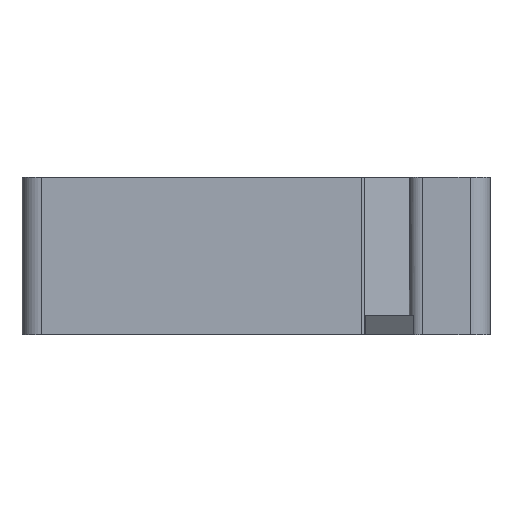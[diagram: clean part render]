
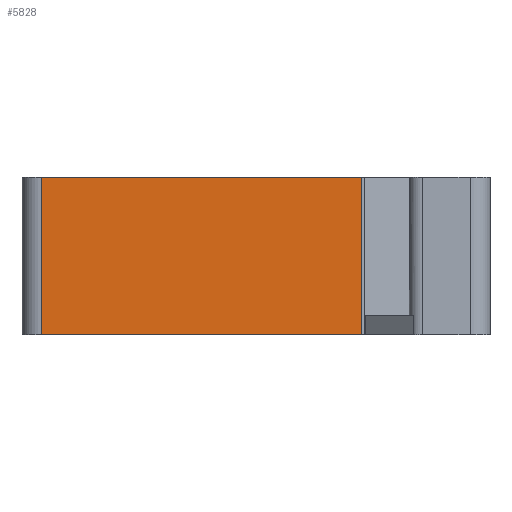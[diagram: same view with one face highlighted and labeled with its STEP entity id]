
A CAD part, left-side view. The second image highlights one B-rep face of the part: STEP entity #5828.
In plain terms, the highlighted planar face has unit normal (-1, 0, 0).
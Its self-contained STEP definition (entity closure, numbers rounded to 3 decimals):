
#5828 = ADVANCED_FACE('',(#5829),#5843,.F.);
#5829 = FACE_BOUND('',#5830,.T.);
#5830 = EDGE_LOOP('',(#5831,#5854,#5870,#5886));
#5831 = ORIENTED_EDGE('',*,*,#5832,.T.);
#5832 = EDGE_CURVE('',#5833,#5835,#5837,.T.);
#5833 = VERTEX_POINT('',#5834);
#5834 = CARTESIAN_POINT('',(243.147,209.585,0.));
#5835 = VERTEX_POINT('',#5836);
#5836 = CARTESIAN_POINT('',(243.147,193.376,0.));
#5837 = SURFACE_CURVE('',#5838,(#5842),.PCURVE_S1.);
#5838 = LINE('',#5839,#5840);
#5839 = CARTESIAN_POINT('',(243.147,209.585,0.));
#5840 = VECTOR('',#5841,1.);
#5841 = DIRECTION('',(0.,-1.,0.));
#5842 = PCURVE('',#5843,#5848);
#5843 = PLANE('',#5844);
#5844 = AXIS2_PLACEMENT_3D('',#5845,#5846,#5847);
#5845 = CARTESIAN_POINT('',(243.147,209.585,8.));
#5846 = DIRECTION('',(1.,0.,0.));
#5847 = DIRECTION('',(0.,0.,-1.));
#5848 = DEFINITIONAL_REPRESENTATION('',(#5849),#5853);
#5849 = LINE('',#5850,#5851);
#5850 = CARTESIAN_POINT('',(8.,0.));
#5851 = VECTOR('',#5852,1.);
#5852 = DIRECTION('',(0.,-1.));
#5853 = ( GEOMETRIC_REPRESENTATION_CONTEXT(2) 
PARAMETRIC_REPRESENTATION_CONTEXT() REPRESENTATION_CONTEXT('2D SPACE',''
  ) );
#5854 = ORIENTED_EDGE('',*,*,#5855,.T.);
#5855 = EDGE_CURVE('',#5835,#5856,#5858,.T.);
#5856 = VERTEX_POINT('',#5857);
#5857 = CARTESIAN_POINT('',(243.147,193.376,8.));
#5858 = SURFACE_CURVE('',#5859,(#5863),.PCURVE_S1.);
#5859 = LINE('',#5860,#5861);
#5860 = CARTESIAN_POINT('',(243.147,193.376,8.));
#5861 = VECTOR('',#5862,1.);
#5862 = DIRECTION('',(0.,0.,1.));
#5863 = PCURVE('',#5843,#5864);
#5864 = DEFINITIONAL_REPRESENTATION('',(#5865),#5869);
#5865 = LINE('',#5866,#5867);
#5866 = CARTESIAN_POINT('',(0.,-16.209));
#5867 = VECTOR('',#5868,1.);
#5868 = DIRECTION('',(-1.,0.));
#5869 = ( GEOMETRIC_REPRESENTATION_CONTEXT(2) 
PARAMETRIC_REPRESENTATION_CONTEXT() REPRESENTATION_CONTEXT('2D SPACE',''
  ) );
#5870 = ORIENTED_EDGE('',*,*,#5871,.F.);
#5871 = EDGE_CURVE('',#5872,#5856,#5874,.T.);
#5872 = VERTEX_POINT('',#5873);
#5873 = CARTESIAN_POINT('',(243.147,209.585,8.));
#5874 = SURFACE_CURVE('',#5875,(#5879),.PCURVE_S1.);
#5875 = LINE('',#5876,#5877);
#5876 = CARTESIAN_POINT('',(243.147,209.585,8.));
#5877 = VECTOR('',#5878,1.);
#5878 = DIRECTION('',(0.,-1.,0.));
#5879 = PCURVE('',#5843,#5880);
#5880 = DEFINITIONAL_REPRESENTATION('',(#5881),#5885);
#5881 = LINE('',#5882,#5883);
#5882 = CARTESIAN_POINT('',(0.,0.));
#5883 = VECTOR('',#5884,1.);
#5884 = DIRECTION('',(0.,-1.));
#5885 = ( GEOMETRIC_REPRESENTATION_CONTEXT(2) 
PARAMETRIC_REPRESENTATION_CONTEXT() REPRESENTATION_CONTEXT('2D SPACE',''
  ) );
#5886 = ORIENTED_EDGE('',*,*,#5887,.T.);
#5887 = EDGE_CURVE('',#5872,#5833,#5888,.T.);
#5888 = SURFACE_CURVE('',#5889,(#5893),.PCURVE_S1.);
#5889 = LINE('',#5890,#5891);
#5890 = CARTESIAN_POINT('',(243.147,209.585,8.));
#5891 = VECTOR('',#5892,1.);
#5892 = DIRECTION('',(0.,0.,-1.));
#5893 = PCURVE('',#5843,#5894);
#5894 = DEFINITIONAL_REPRESENTATION('',(#5895),#5899);
#5895 = LINE('',#5896,#5897);
#5896 = CARTESIAN_POINT('',(0.,0.));
#5897 = VECTOR('',#5898,1.);
#5898 = DIRECTION('',(1.,0.));
#5899 = ( GEOMETRIC_REPRESENTATION_CONTEXT(2) 
PARAMETRIC_REPRESENTATION_CONTEXT() REPRESENTATION_CONTEXT('2D SPACE',''
  ) );
